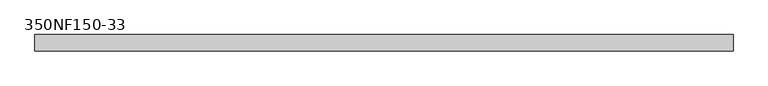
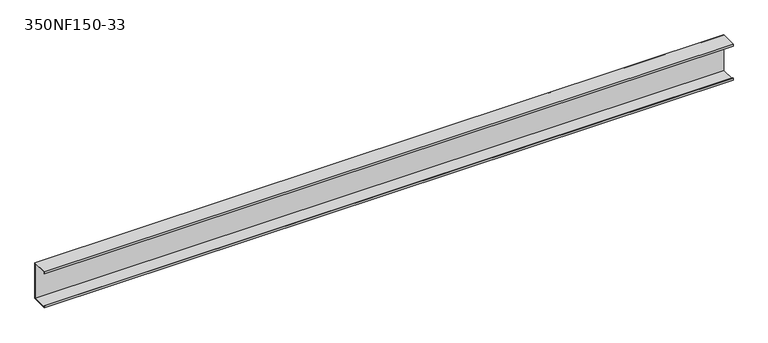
"""IFC4 building model written with IfcOpenShell, lengths in millimetres: beam geometry, BIMSF-SSMA-S : 350NF150-33."""

from ifc_helpers import new_model, si_unit, frame, origin, place, context, project, spatial, polyline, outline, extrude, source, transform, mapped, element, save


def beam_350nf150_33_2afbb7e6(model_context):
    return source(origin(), model_context, "Body", "SweptSolid", [
        extrude(outline(polyline([(19.05, 44.45), (19.05, -44.45), (-19.05, -44.45), (-19.05, -39.6748), (-18.1676842, -39.6748), (-18.1676842, -43.5676842), (18.1676842, -43.5676842), (18.1676842, 43.5676842), (-18.1676842, 43.5676842), (-18.1676842, 39.6748), (-19.05, 39.6748), (-19.05, 44.45), (19.05, 44.45)])), frame((-808.0375, 0.0, 0.0), z_axis=(1.0, 0.0, 0.0), x_axis=(0.0, 1.0, 0.0)), (0.0, 0.0, 1.0), 1616.075),
    ])


if __name__ == "__main__":
    model = new_model("IFC4")
    model_context = context("Model", 3, world=origin())
    ifc_project = project(units=[si_unit("LENGTHUNIT", "METRE", prefix="MILLI")], contexts=[model_context])
    site = spatial("IfcSite", under=ifc_project)
    building = spatial("IfcBuilding", under=site)
    placement = place(None, origin())
    beam_350nf150_33_shape = beam_350nf150_33_2afbb7e6(model_context)
    element("IfcBeam", 1, ObjectType="BIMSF-SSMA-S : 350NF150-33", at=placement, inside=building, context=model_context, shape_type="MappedRepresentation", body=[
        mapped(beam_350nf150_33_shape, transform((0.0, 0.0, 0.0), x_axis=(1.0, 0.0, 0.0), y_axis=(0.0, 1.0, 0.0), z_axis=(0.0, 0.0, 1.0))),
    ])
    save(model, "model.ifc")
